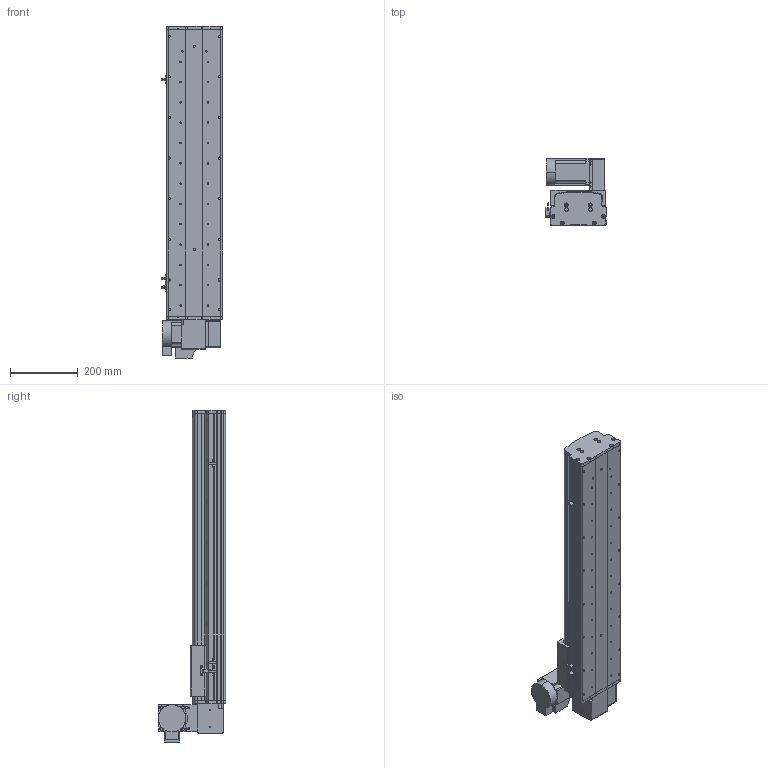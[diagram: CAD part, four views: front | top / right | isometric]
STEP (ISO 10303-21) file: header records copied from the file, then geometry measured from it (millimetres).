
FILE_DESCRIPTION (( 'STEP AP214' ), '1' );
FILE_NAME ('KSD165B-S600-MRU-CM .STEP', '2017-10-17T02:08:16', ( '微软用户' ), ( '微软中国' ), 'SwSTEP 2.0', 'SolidWorks 2014', '' );
FILE_SCHEMA (( 'AUTOMOTIVE_DESIGN' ));
Length unit declared in the file: millimetre
Products named in the file (17): KSD165模组同步带底板-600行程-最新; 拸秶雄ん750W侜督萇儂; 165宽马达安装板同步带右; U倰嫖萇假蚾璃; U倰嫖萇EEㄜSX672; 覜茼え68遵圉猾敕; KSD165模组-同步带-防撞垫2; KSD165模组同步带-防撞垫1; KSD165耀郪-ヶ傷啣1-肮祭湍; KSD165模组-后端板1-同步带; KSD165模组-同步带滑动座-最新版; KSD165B-S600-MRU-CM ; 130宽模组马达安装板连板上下折丝杆同步带; 130宽模组保护罩上下左右折-同步带; HTPA26S5M250-A-H8 750W萇儂蚚; HTPA26S5M250-A-H8 400W萇儂蚚 ; KSD165模组-同步带防尘盖1-600行程-最新版
Assembly tree (20 placements, depth 2):
  KSD165B-S600-MRU-CM 
    KSD165模组-同步带滑动座-最新版
    KSD165模组-后端板1-同步带
    KSD165耀郪-ヶ傷啣1-肮祭湍
    KSD165模组同步带-防撞垫1
    KSD165模组-同步带-防撞垫2
    覜茼え68遵圉猾敕
    U倰嫖萇EEㄜSX672  x3
    U倰嫖萇假蚾璃  x3
    165宽马达安装板同步带右
    拸秶雄ん750W侜督萇儂
    KSD165模组同步带底板-600行程-最新
    KSD165模组-同步带防尘盖1-600行程-最新版
    HTPA26S5M250-A-H8 400W萇儂蚚 
    HTPA26S5M250-A-H8 750W萇儂蚚
    130宽模组保护罩上下左右折-同步带
    130宽模组马达安装板连板上下折丝杆同步带
Bounding box: 178.7 x 198 x 980.5 mm (x, y, z)
Volume: 6109509.1 mm3; surface area: 1416574 mm2
Topology: 21 solids, 21 shells, 1917 faces, 5406 edges, 3528 vertices
Faces by surface type: cylinder 1223, plane 582, cone 112
Entity records: 61820 total; most frequent: CARTESIAN_POINT 12688, DIRECTION 10194, ORIENTED_EDGE 9472, EDGE_CURVE 4736, AXIS2_PLACEMENT_3D 3992, VERTEX_POINT 3120, CIRCLE 2272, VECTOR 2210
